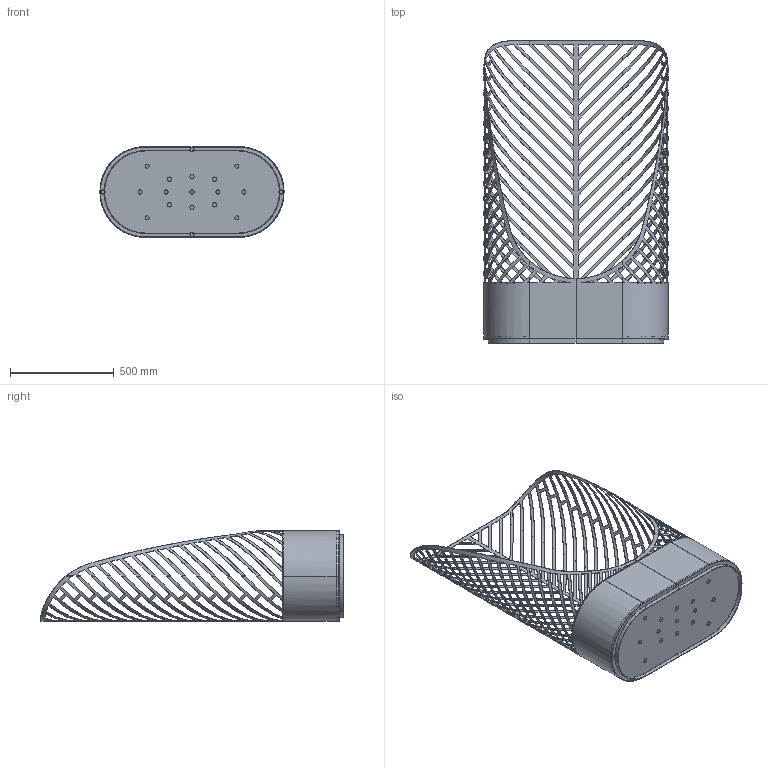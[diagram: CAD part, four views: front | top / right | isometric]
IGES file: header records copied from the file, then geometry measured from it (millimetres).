
Start section: SolidWorks IGES file using analytic representation for surfaces
Global section: file name: \\utenti\Dati Utenti\Tecnico\DC\2D - 3D per sito\3D\DeCastelli-3D-Screen Pot 2.igs; native system: SolidWorks 2022; preprocessor: SolidWorks 2022; author: Simonep; date: 240729.120729; units: millimetre
Bounding box: 888.27 x 1460 x 438 mm (x, y, z)
Surface area: 4272142.1 mm2 (no closed solid volume)
Topology: 0 solids, 0 shells, 510 faces, 5273 edges, 5273 vertices
Faces by surface type: bspline 454, revolution 56
